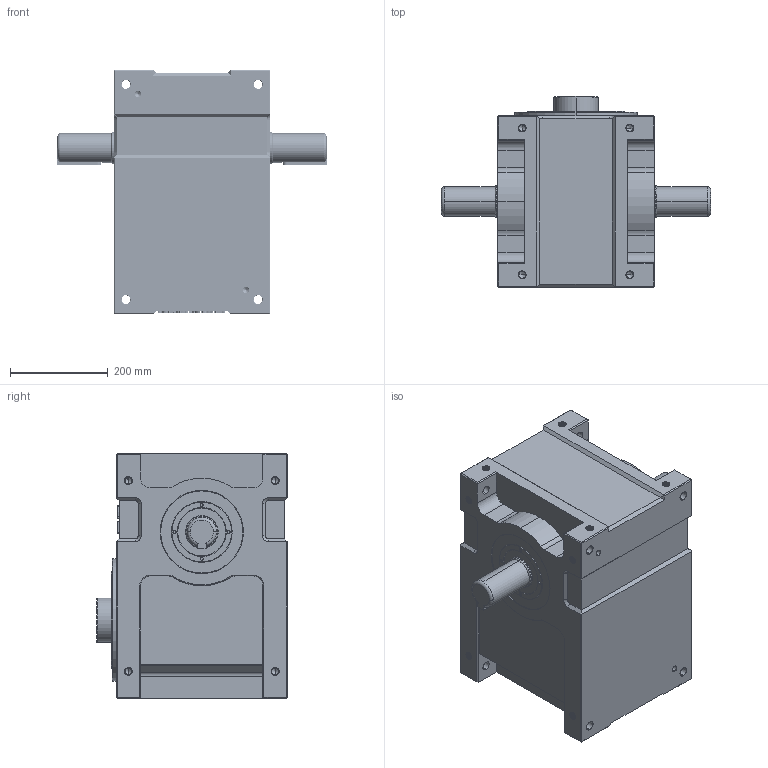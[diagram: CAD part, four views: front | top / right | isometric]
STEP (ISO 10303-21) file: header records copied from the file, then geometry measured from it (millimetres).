
FILE_DESCRIPTION (( 'STEP AP214' ), '1' );
FILE_NAME ('ER-RU180DF英锐凸轮分割器3D壳体和法兰面加销孔标准图纸(电话15062628977)AA.STEP', '2022-08-13T07:08:29', ( '微软用户' ), ( '微软中国' ), 'SwSTEP 2.0', 'SolidWorks 2017', '' );
FILE_SCHEMA (( 'AUTOMOTIVE_DESIGN' ));
Length unit declared in the file: millimetre
Products named in the file (1): ER-RU180DF英锐凸轮分割器3D壳体和法兰面加销孔标准图纸(电话15062628977)AA
Bounding box: 550 x 390 x 500 mm (x, y, z)
Volume: 51867551.3 mm3; surface area: 1054582.8 mm2
Topology: 1 solids, 1 shells, 1684 faces, 4444 edges, 2848 vertices
Faces by surface type: cylinder 697, plane 448, bspline 344, cone 179, torus 16
Entity records: 122040 total; most frequent: CARTESIAN_POINT 85723, ORIENTED_EDGE 8784, DIRECTION 5660, EDGE_CURVE 4392, VERTEX_POINT 2848, LINE 2080, VECTOR 2080, EDGE_LOOP 1838
